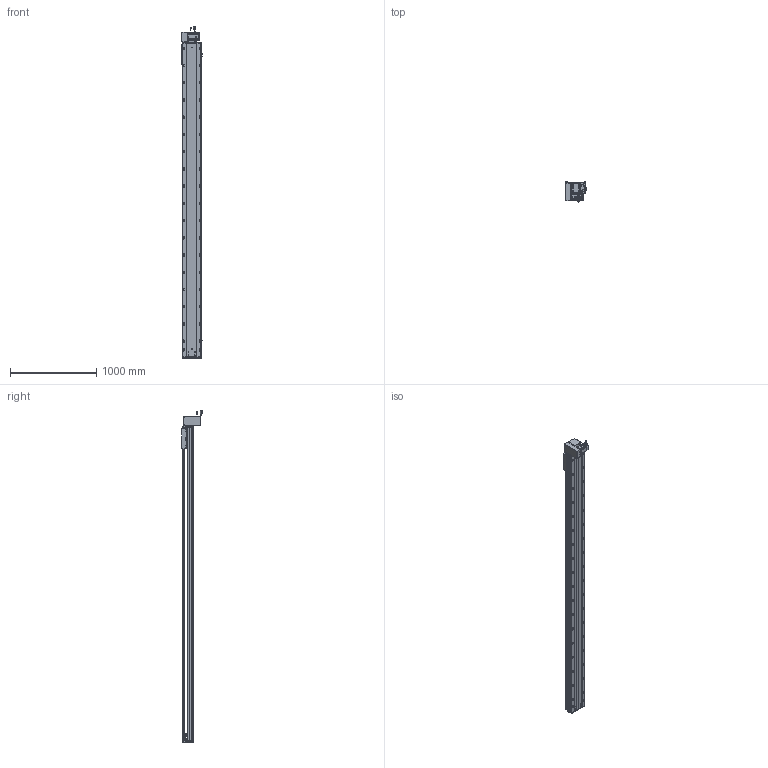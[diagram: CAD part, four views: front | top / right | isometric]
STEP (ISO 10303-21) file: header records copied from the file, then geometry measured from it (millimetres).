
FILE_DESCRIPTION (( 'STEP AP203' ), '1' );
FILE_NAME ('RY220-T-300-DL.SLDASM_3300.step', '2022-07-25T07:55:56', ( '' ), ( '' ), 'SwSTEP 2.0', 'SolidWorks 2016', '' );
FILE_SCHEMA (( 'CONFIG_CONTROL_DESIGN' ));
Length unit declared in the file: millimetre
Products named in the file (14): RY220-同步轮副支撑座6304×2; 怢湛750W_ECMA-CX0807ES; RY220-T-300-DL.SLDASM_3300; RY220-T菁釱-300_3300; RY220-俋离672覜茼んえ; RY220-T-蛌殏萇儂假蚾啣(750W); RY220圉猾敕々湍臏賑輸; 110A-T-肮祭謫釱傷裔; 滅袉蝶18-15; RY220翋肮祭謫釱; RY220-T-300-奻裔啣_3300; RY220翋肮祭謫裔啣; RY220-T-湍謫欶(鍼踢); 覜茼ん672
Assembly tree (18 placements, depth 2):
  RY220-T-300-DL.SLDASM_3300
    RY220-T菁釱-300_3300
    RY220翋肮祭謫釱
    覜茼ん672  x3
    RY220圉猾敕々湍臏賑輸
    RY220-T-300-奻裔啣_3300
    RY220-俋离672覜茼んえ
    滅袉蝶18-15  x3
    RY220翋肮祭謫裔啣  x2
    110A-T-肮祭謫釱傷裔
    怢湛750W_ECMA-CX0807ES
    RY220-T-湍謫欶(鍼踢)
    RY220-T-蛌殏萇儂假蚾啣(750W)
    RY220-同步轮副支撑座6304×2
Bounding box: 239.7 x 240.74 x 3853.27 mm (x, y, z)
Volume: 27143151.8 mm3; surface area: 8432319.8 mm2
Topology: 19 solids, 19 shells, 3096 faces, 8571 edges, 5354 vertices
Faces by surface type: cylinder 1544, plane 1069, cone 401, bspline 56, sphere 16, torus 10
Entity records: 103347 total; most frequent: CARTESIAN_POINT 29097, ORIENTED_EDGE 15322, DIRECTION 14860, EDGE_CURVE 7661, AXIS2_PLACEMENT_3D 5386, VERTEX_POINT 4978, VECTOR 4088, LINE 4088
